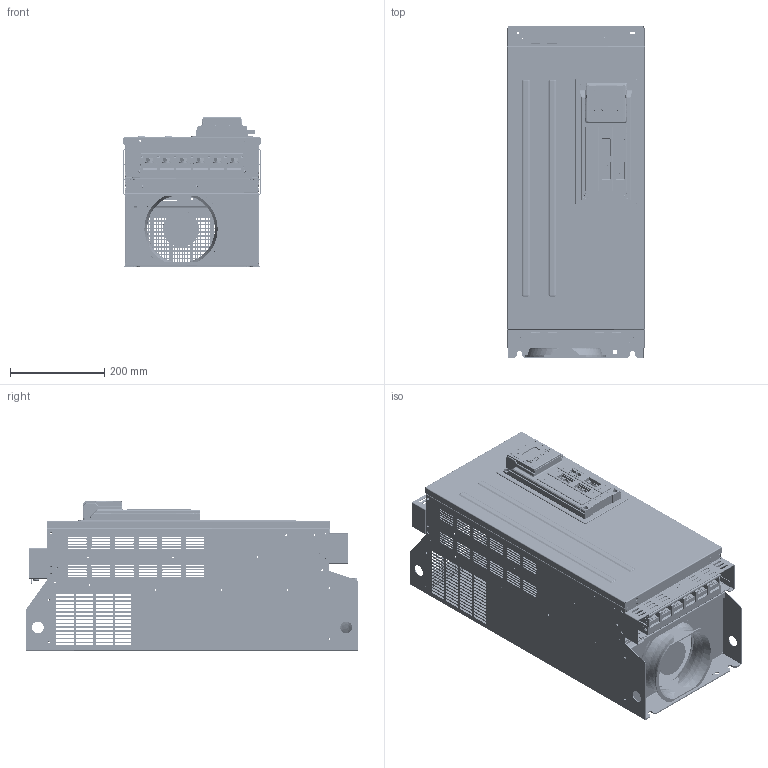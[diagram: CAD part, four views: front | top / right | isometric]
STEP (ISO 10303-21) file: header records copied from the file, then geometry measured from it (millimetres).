
FILE_DESCRIPTION(/* description */ (''),/* implementation_level */ '2;1');
FILE_NAME(/* name */ 'DS5C1-445P0-PTA-官网图',/* time_stamp */ '2023-03-16T09:19:15+08:00',/* author */ (''),/* organization */ (''),/* preprocessor_version */ 'ST-DEVELOPER v15',/* originating_system */ '',/* authorisation */ '');
FILE_SCHEMA (('AUTOMOTIVE_DESIGN'));
Products named in the file (1): Document
Bounding box: 291 x 705 x 318.35 mm (x, y, z)
Surface area: 5590950 mm2 (no closed solid volume)
Topology: 0 solids, 12602 shells, 12612 faces, 78048 edges, 78025 vertices
Faces by surface type: plane 7047, bspline 5565
Entity records: 853984 total; most frequent: CARTESIAN_POINT 457658, ORIENTED_EDGE 77810, EDGE_CURVE 77790, VERTEX_POINT 77777, B_SPLINE_CURVE_WITH_KNOTS 61586, EDGE_LOOP 14681, PRESENTATION_LAYER_ASSIGNMENT 12732, ADVANCED_FACE 12612
